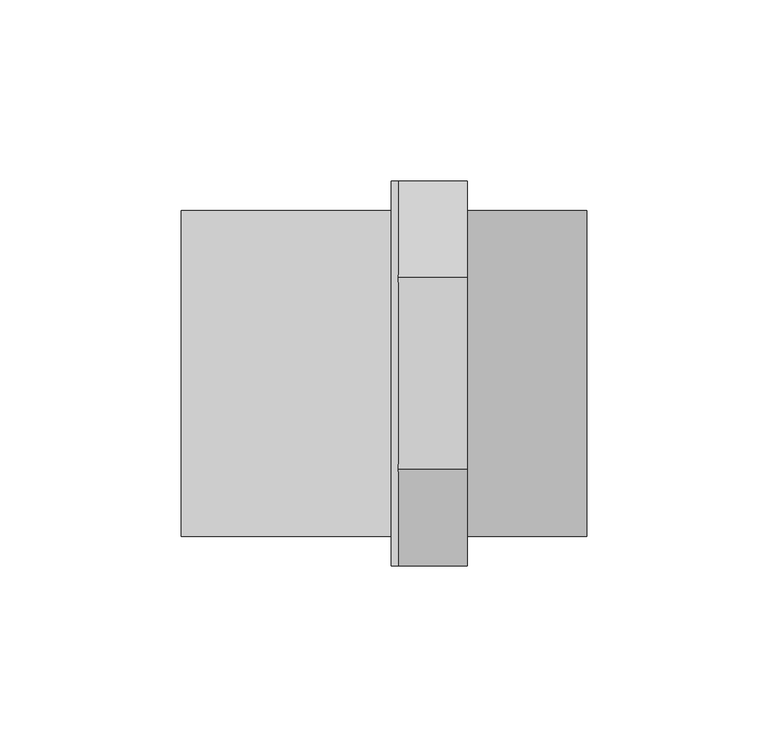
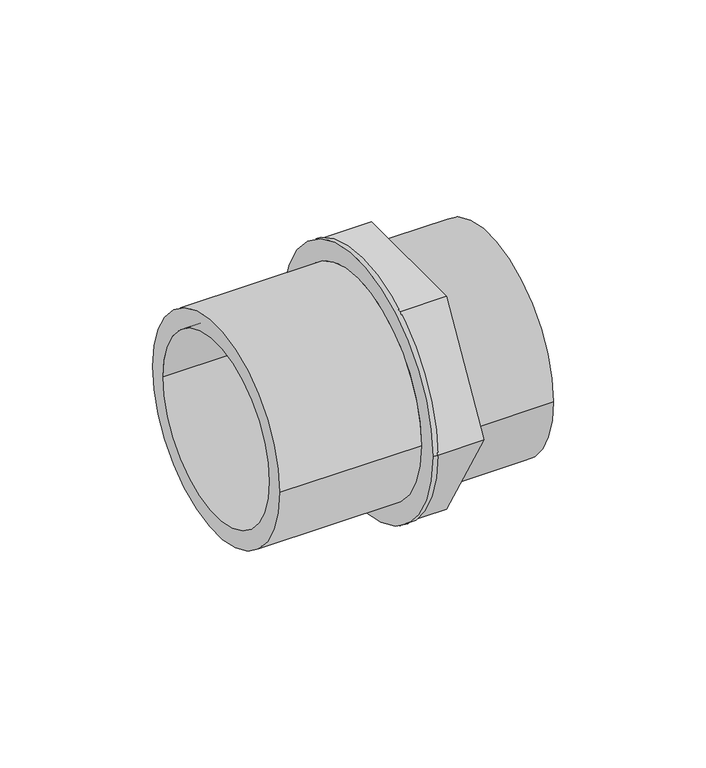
"""IFC4 building model written with IfcOpenShell, lengths in millimetres: pipe fitting geometry, 01011312 : Passa muros em PVC."""

import ifcopenshell
import ifcopenshell.guid

model = None  # the IFC model being written
_history = None  # IfcOwnerHistory: only IFC2X3 demands one
_inside = {}  # id of a spatial element -> (the spatial element, [elements in it])
_under = {}  # id of a project, library or spatial element -> (it, [spatial elements below it])
_declared = {}  # id of a project -> (the project, [libraries it declares])
_typed = {}  # id of a type object -> (the type object, [elements of that type])
_made_of = {}  # id of a material, layer set ... -> (it, [elements and type objects made of it])


def new_model(schema):
    """Start an empty IFC model of exactly this schema.

    Asked for "IFC4X3", IfcOpenShell would pick the latest addendum, in which some entities
    have other attributes; the version numbers below select the first issue.
    IFC2X3 requires an IfcOwnerHistory on every rooted entity: one is made here for all.
    """
    global model, _history
    if schema == "IFC4X3":
        model = ifcopenshell.file(schema_version=(4, 3, 0, 0))
    else:
        model = ifcopenshell.file(schema=schema)
    _inside.clear()
    _under.clear()
    _declared.clear()
    _typed.clear()
    _made_of.clear()
    _history = None
    if model.schema == "IFC2X3":
        org = make("IfcOrganization", Name="unknown")
        user = make(
            "IfcPersonAndOrganization",
            ThePerson=make("IfcPerson", FamilyName="unknown"),
            TheOrganization=org,
        )
        app = make(
            "IfcApplication",
            ApplicationDeveloper=org,
            Version="unknown",
            ApplicationFullName="unknown",
            ApplicationIdentifier="unknown",
        )
        _history = make(
            "IfcOwnerHistory",
            OwningUser=user,
            OwningApplication=app,
            ChangeAction="ADDED",
            CreationDate=0,
        )
    return model


def make(cls, **values):
    """One entity of the class cls with the attributes given. An attribute that is None is left unset."""
    return model.create_entity(
        cls, **{name: value for name, value in values.items() if value is not None}
    )


def rooted(cls, **values):
    """An entity with a GlobalId (a new one), such as an element, a storey or a relation."""
    return make(cls, GlobalId=ifcopenshell.guid.new(), OwnerHistory=_history, **values)


def si_unit(unit_type, name, prefix=None):
    """IfcSIUnit, for example si_unit("LENGTHUNIT", "METRE", prefix="MILLI")."""
    return make("IfcSIUnit", UnitType=unit_type, Prefix=prefix, Name=name)


def assignment(units):
    """IfcUnitAssignment: the units of a project."""
    return None if units is None else make("IfcUnitAssignment", Units=units)


def point(xyz):
    """IfcCartesianPoint."""
    return None if xyz is None else make("IfcCartesianPoint", Coordinates=xyz)


def direction(xyz):
    """IfcDirection."""
    return None if xyz is None else make("IfcDirection", DirectionRatios=xyz)


def frame(location, z_axis=None, x_axis=None):
    """IfcAxis2Placement3D, a coordinate frame: its origin and axes. An axis left out is left unset."""
    return make(
        "IfcAxis2Placement3D",
        Location=point(location),
        Axis=direction(z_axis),
        RefDirection=direction(x_axis),
    )


def origin():
    """The frame at (0, 0, 0) with its axes left unset."""
    return frame((0.0, 0.0, 0.0))


def place(relative_to, where):
    """IfcLocalPlacement: puts the frame where relative to a parent placement (None: the world)."""
    return make(
        "IfcLocalPlacement", PlacementRelTo=relative_to, RelativePlacement=where
    )


def context(
    kind, dimensions, precision=None, world=None, true_north=None, identifier=None
):
    """IfcGeometricRepresentationContext, for example the 3D "Model" context."""
    return make(
        "IfcGeometricRepresentationContext",
        ContextIdentifier=identifier,
        ContextType=kind,
        CoordinateSpaceDimension=dimensions,
        Precision=precision,
        WorldCoordinateSystem=world,
        TrueNorth=true_north,
    )


def project(units=None, contexts=None):
    """IfcProject with its units and contexts."""
    return rooted(
        "IfcProject",
        Name="project",
        RepresentationContexts=contexts,
        UnitsInContext=assignment(units),
    )


def spatial(cls, under=None, at=None, **own):
    """A site, building, storey or space (cls), placed at a placement, below another one or the project."""
    s = rooted(cls, ObjectPlacement=at, **own)
    if under is not None:
        _under.setdefault(under.id(), (under, []))[1].append(s)
    return s


def polyline(points):
    """IfcPolyline through the points."""
    return make("IfcPolyline", Points=[point(p) for p in points])


def circle_curve(where, radius):
    """IfcCircle in the frame where."""
    return make("IfcCircle", Position=where, Radius=radius)


def shape(context_of_items, identifier, shape_type, items):
    """IfcShapeRepresentation: the items that make up one representation, for example the "Body"."""
    return make(
        "IfcShapeRepresentation",
        ContextOfItems=context_of_items,
        RepresentationIdentifier=identifier,
        RepresentationType=shape_type,
        Items=items,
    )


def source(mapping_origin, context_of_items, identifier, shape_type, items):
    """IfcRepresentationMap: a shape defined once, which mapped items show again and again."""
    return make(
        "IfcRepresentationMap",
        MappingOrigin=mapping_origin,
        MappedRepresentation=shape(context_of_items, identifier, shape_type, items),
    )


def transform(
    local_origin,
    x_axis=None,
    y_axis=None,
    z_axis=None,
    scale=None,
    scale2=None,
    scale3=None,
    uniform=True,
):
    """IfcCartesianTransformationOperator3D, or its non-uniform kind. x_axis, y_axis, z_axis: its Axis1, 2, 3."""
    if uniform:
        return make(
            "IfcCartesianTransformationOperator3D",
            Axis1=direction(x_axis),
            Axis2=direction(y_axis),
            LocalOrigin=point(local_origin),
            Scale=scale,
            Axis3=direction(z_axis),
        )
    return make(
        "IfcCartesianTransformationOperator3DnonUniform",
        Axis1=direction(x_axis),
        Axis2=direction(y_axis),
        LocalOrigin=point(local_origin),
        Scale=scale,
        Axis3=direction(z_axis),
        Scale2=scale2,
        Scale3=scale3,
    )


def mapped(mapping_source, mapping_target):
    """IfcMappedItem: shows the shape of a source again, moved by a transform."""
    return make(
        "IfcMappedItem", MappingSource=mapping_source, MappingTarget=mapping_target
    )


def made_of(thing, what):
    """Note that an element or type object is made of a material, layer set ...; save() writes the relation."""
    if what is not None:
        _made_of.setdefault(what.id(), (what, []))[1].append(thing)
    return thing


def element(
    cls,
    number,
    at=None,
    inside=None,
    cuts=None,
    type_object=None,
    material=None,
    context=None,
    identifier="Body",
    shape_type=None,
    held_by="IfcProductDefinitionShape",
    body=None,
    shapes=None,
    **own,
):
    """One element of the class cls, such as IfcWall. Its Tag is "e" and its number.

    at: its placement. inside: the storey or other place that contains it. cuts: it is an
    opening in that element (IfcRelVoidsElement). A single representation is given by context,
    identifier, shape_type and body (its items); several are given by shapes. held_by: the class
    of the entity that holds the representations. save() writes the other relations.
    """
    e = rooted(cls, Tag="e%d" % number, ObjectPlacement=at, **own)
    if body is not None:
        shapes = [shape(context, identifier, shape_type, body)]
    if shapes is not None:
        e.Representation = make(held_by, Representations=shapes)
    if inside is not None:
        _inside.setdefault(inside.id(), (inside, []))[1].append(e)
    if cuts is not None:
        rooted(
            "IfcRelVoidsElement", RelatingBuildingElement=cuts, RelatedOpeningElement=e
        )
    if type_object is not None:
        _typed.setdefault(type_object.id(), (type_object, []))[1].append(e)
    return made_of(e, material)


def aggregate(whole, parts):
    """IfcRelAggregates: a whole, such as a stair, and the parts it consists of."""
    return rooted("IfcRelAggregates", RelatingObject=whole, RelatedObjects=parts)


def save(model, path):
    """Write the relations noted so far, then the file.

    IfcRelAggregates (storeys below a building ...), IfcRelContainedInSpatialStructure (elements
    in a storey), IfcRelDefinesByType, IfcRelAssociatesMaterial and IfcRelDeclares: one each for
    every whole, place, type object, material and project.
    """
    for whole, parts in _under.values():
        aggregate(whole, parts)
    for where, things in _inside.values():
        rooted(
            "IfcRelContainedInSpatialStructure",
            RelatedElements=things,
            RelatingStructure=where,
        )
    for kind, things in _typed.values():
        rooted("IfcRelDefinesByType", RelatedObjects=things, RelatingType=kind)
    for what, things in _made_of.values():
        rooted("IfcRelAssociatesMaterial", RelatedObjects=things, RelatingMaterial=what)
    for by, libraries in _declared.values():
        rooted("IfcRelDeclares", RelatingContext=by, RelatedDefinitions=libraries)
    model.write(path)


def plane_surface(at):
    """IfcPlane: the flat surface through the origin of the frame at, square to its z axis."""
    return make("IfcPlane", Position=at)


def cylinder_surface(at, radius):
    """IfcCylindricalSurface: all points at the distance radius from the z axis of the frame at."""
    return make("IfcCylindricalSurface", Position=at, Radius=radius)


def revolved_surface(curve, axis_point, axis_direction):
    """IfcSurfaceOfRevolution: the curve turned about the line through axis_point along axis_direction."""
    return make(
        "IfcSurfaceOfRevolution",
        SweptCurve=make("IfcArbitraryOpenProfileDef", ProfileType="CURVE", Curve=curve),
        AxisPosition=make("IfcAxis1Placement", Location=point(axis_point), Axis=direction(axis_direction)),
    )


def advanced_brep(points, edges, surfaces, faces):
    """IfcAdvancedBrep: a solid bounded by faces that lie on surfaces and meet in shared edges.

    An edge is (start, end): straight between two places in points (the first is 0);
    or (start, end, curve); or (start, end, curve, False) where it runs against its curve.
    A face is (place in surfaces, loops), or (place, loops, False) where it looks against
    its surface's normal. A loop lists edges by number (the first is 1), with a minus sign
    where the edge is run from its end to its start. The first loop is the outer one.
    """
    corners = [point(p) for p in points]
    vertices = [make("IfcVertexPoint", VertexGeometry=c) for c in corners]
    made = []
    for start, end, *more in edges:
        made.append(
            make(
                "IfcEdgeCurve",
                EdgeStart=vertices[start],
                EdgeEnd=vertices[end],
                EdgeGeometry=more[0] if more else make("IfcPolyline", Points=[corners[start], corners[end]]),
                SameSense=more[1] if len(more) > 1 else True,
            )
        )
    hull = []
    for where, loops, *sense in faces:
        bounds = []
        for j, loop in enumerate(loops):
            ring = [make("IfcOrientedEdge", EdgeElement=made[abs(k) - 1], Orientation=k > 0) for k in loop]
            bounds.append(
                make(
                    "IfcFaceOuterBound" if j == 0 else "IfcFaceBound",
                    Bound=make("IfcEdgeLoop", EdgeList=ring),
                    Orientation=True,
                )
            )
        hull.append(make("IfcAdvancedFace", Bounds=bounds, FaceSurface=surfaces[where], SameSense=sense[0] if sense else True))
    return make("IfcAdvancedBrep", Outer=make("IfcClosedShell", CfsFaces=hull))


def pipe_fitting_8226b446(model_context):
    return source(origin(), model_context, "Body", "AdvancedBrep", [
        advanced_brep(
        [(23.0, -26.5581124, 46.0), (23.0, -53.1162248, 0.0), (23.0, -26.5581124, -46.0), (23.0, 26.5581124, -46.0), (23.0, 53.1162248, 0.0), (23.0, 26.5581124, 46.0), (23.0, -45.0, 0.0), (23.0, 45.0, 0.0), (23.0, 37.5, 0.0), (23.0, -37.5, 0.0), (4.0, -26.5581124, 46.0), (4.0, -53.1162248, 0.0), (4.0, -26.5581124, -46.0), (4.0, 26.5581124, -46.0), (4.0, 53.1162248, 0.0), (4.0, 26.5581124, 46.0), (56.0, -45.0, 0.0), (56.0, 45.0, 0.0), (56.0, -37.5, 0.0), (56.0, 37.5, 0.0), (-56.0, 45.0, 0.0), (-56.0, -45.0, 0.0), (-56.0, 37.5, 0.0), (-56.0, -37.5, 0.0), (2.0, -45.0, 0.0), (2.0, 45.0, 0.0), (2.0, -53.1162248, 0.0), (2.0, 53.1162248, 0.0), (2.0, -37.5, 0.0), (2.0, 37.5, 0.0)],
        [
            (0, 1),
            (1, 2),
            (2, 3),
            (3, 4),
            (4, 5),
            (5, 0),
            (6, 7, circle_curve(frame((23.0, 0.0, 0.0), z_axis=(-1.0, 0.0, 0.0), x_axis=(0.0, 1.0, 0.0)), 45.0)),
            (7, 6, circle_curve(frame((23.0, 0.0, 0.0), z_axis=(-1.0, 0.0, 0.0), x_axis=(0.0, 1.0, 0.0)), 45.0)),
            (8, 9, circle_curve(frame((23.0, 0.0, 0.0), z_axis=(1.0, 0.0, 0.0), x_axis=(0.0, 1.0, 0.0)), 37.5)),
            (9, 8, circle_curve(frame((23.0, 0.0, 0.0), z_axis=(1.0, 0.0, 0.0), x_axis=(0.0, 1.0, 0.0)), 37.5)),
            (0, 10),
            (10, 11),
            (11, 1),
            (11, 12),
            (12, 2),
            (12, 13),
            (13, 3),
            (13, 14),
            (14, 4),
            (14, 15),
            (15, 5),
            (15, 10),
            (16, 17, circle_curve(frame((56.0, 0.0, 0.0), z_axis=(1.0, 0.0, 0.0), x_axis=(0.0, 1.0, 0.0)), 45.0)),
            (17, 16, circle_curve(frame((56.0, 0.0, 0.0), z_axis=(1.0, 0.0, 0.0), x_axis=(0.0, 1.0, 0.0)), 45.0)),
            (18, 19, circle_curve(frame((56.0, 0.0, 0.0), z_axis=(-1.0, 0.0, 0.0), x_axis=(0.0, 1.0, 0.0)), 37.5)),
            (19, 18, circle_curve(frame((56.0, 0.0, 0.0), z_axis=(-1.0, 0.0, 0.0), x_axis=(0.0, 1.0, 0.0)), 37.5)),
            (17, 7),
            (6, 16),
            (20, 21, circle_curve(frame((-56.0, 0.0, 0.0), z_axis=(-1.0, 0.0, 0.0), x_axis=(0.0, -1.0, 0.0)), 45.0)),
            (21, 20, circle_curve(frame((-56.0, 0.0, 0.0), z_axis=(-1.0, 0.0, 0.0), x_axis=(0.0, -1.0, 0.0)), 45.0)),
            (22, 23, circle_curve(frame((-56.0, 0.0, 0.0), z_axis=(1.0, 0.0, 0.0), x_axis=(0.0, -1.0, 0.0)), 37.5)),
            (23, 22, circle_curve(frame((-56.0, 0.0, 0.0), z_axis=(1.0, 0.0, 0.0), x_axis=(0.0, -1.0, 0.0)), 37.5)),
            (21, 24),
            (24, 25, circle_curve(frame((2.0, 0.0, 0.0), z_axis=(-1.0, 0.0, 0.0), x_axis=(0.0, -1.0, 0.0)), 45.0)),
            (25, 20),
            (25, 24, circle_curve(frame((2.0, 0.0, 0.0), z_axis=(-1.0, 0.0, 0.0), x_axis=(0.0, -1.0, 0.0)), 45.0)),
            (10, 11, circle_curve(frame((4.0, 0.0, 0.0), z_axis=(1.0, 0.0, 0.0), x_axis=(0.0, 1.0, 0.0)), 53.1162248)),
            (14, 15, circle_curve(frame((4.0, 0.0, 0.0), z_axis=(1.0, 0.0, 0.0), x_axis=(0.0, 1.0, 0.0)), 53.1162248)),
            (15, 10, circle_curve(frame((4.0, 0.0, 0.0), z_axis=(1.0, 0.0, 0.0), x_axis=(0.0, 1.0, 0.0)), 53.1162248)),
            (13, 14, circle_curve(frame((4.0, 0.0, 0.0), z_axis=(1.0, 0.0, 0.0), x_axis=(0.0, 1.0, 0.0)), 53.1162248)),
            (11, 12, circle_curve(frame((4.0, 0.0, 0.0), z_axis=(1.0, 0.0, 0.0), x_axis=(0.0, 1.0, 0.0)), 53.1162248)),
            (12, 13, circle_curve(frame((4.0, 0.0, 0.0), z_axis=(1.0, 0.0, 0.0), x_axis=(0.0, 1.0, 0.0)), 53.1162248)),
            (26, 27, circle_curve(frame((2.0, 0.0, 0.0), z_axis=(-1.0, 0.0, 0.0), x_axis=(0.0, 1.0, 0.0)), 53.1162248)),
            (27, 26, circle_curve(frame((2.0, 0.0, 0.0), z_axis=(-1.0, 0.0, 0.0), x_axis=(0.0, 1.0, 0.0)), 53.1162248)),
            (28, 29, circle_curve(frame((2.0, 0.0, 0.0), z_axis=(-1.0, 0.0, 0.0), x_axis=(0.0, -1.0, 0.0)), 37.5)),
            (29, 28, circle_curve(frame((2.0, 0.0, 0.0), z_axis=(-1.0, 0.0, 0.0), x_axis=(0.0, -1.0, 0.0)), 37.5)),
            (27, 14),
            (11, 26),
            (18, 9),
            (8, 19),
            (22, 29),
            (28, 23),
        ],
        [
            plane_surface(frame((23.0, -26.5581124, 46.0), z_axis=(1.0000000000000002, 0.0, 0.0), x_axis=(0.0, -0.5000000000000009, -0.8660254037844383))),
            plane_surface(frame((23.0, -26.5581124, 46.0), z_axis=(0.0, -0.8660254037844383, 0.5000000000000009), x_axis=(-1.0, 0.0, 0.0))),
            plane_surface(frame((23.0, -53.1162248, 0.0), z_axis=(0.0, -0.866025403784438, -0.500000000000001), x_axis=(-1.0, 0.0, 0.0))),
            plane_surface(frame((23.0, -26.5581124, -46.0), z_axis=(0.0, 0.0, -1.0), x_axis=(-1.0, 0.0, 0.0))),
            plane_surface(frame((23.0, 26.5581124, -46.0), z_axis=(0.0, 0.8660254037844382, -0.5000000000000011), x_axis=(-1.0, 0.0, 0.0))),
            plane_surface(frame((23.0, 53.1162248, 0.0), z_axis=(0.0, 0.8660254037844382, 0.500000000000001), x_axis=(-1.0, 0.0, 0.0))),
            plane_surface(frame((23.0, 26.5581124, 46.0), z_axis=(0.0, 0.0, 1.0), x_axis=(-1.0, 0.0, 0.0))),
            plane_surface(frame((56.0, 0.0, 0.0), z_axis=(1.0, 0.0, 0.0), x_axis=(0.0, 0.0, 1.0))),
            cylinder_surface(frame((23.0, 0.0, 0.0), z_axis=(-1.0, 0.0, 0.0), x_axis=(0.0, 1.0, 0.0)), 45.0),
            plane_surface(frame((-56.0, 0.0, 0.0), z_axis=(-1.0, 0.0, 0.0), x_axis=(0.0, 0.0, 1.0))),
            cylinder_surface(frame((2.0, 0.0, 0.0), z_axis=(1.0, 0.0, 0.0), x_axis=(0.0, -1.0, 0.0)), 45.0),
            plane_surface(frame((4.0, 53.1162248, 0.0), z_axis=(1.0, 0.0, 0.0), x_axis=(0.0, 0.0, 1.0))),
            plane_surface(frame((2.0, 53.1162248, 0.0), z_axis=(-1.0, 0.0, 0.0), x_axis=(0.0, 0.0, -1.0))),
            cylinder_surface(frame((2.0, 0.0, 0.0), z_axis=(1.0, 0.0, 0.0), x_axis=(0.0, 1.0, 0.0)), 53.1162248),
            revolved_surface(polyline([(56.0, 37.5, 0.0), (23.0, 37.5, 0.0)]), (23.0, 0.0, 0.0), (1.0, 0.0, 0.0)),
            revolved_surface(polyline([(-56.0, -37.5, 0.0), (2.0, -37.5, 0.0)]), (2.0, 0.0, 0.0), (-1.0, 0.0, 0.0)),
        ],
        [
            (0, [[1, 2, 3, 4, 5, 6], [7, 8]]),
            (0, [[9, 10]]),
            (1, [[-1, 11, 12, 13]]),
            (2, [[-2, -13, 14, 15]]),
            (3, [[-3, -15, 16, 17]]),
            (4, [[-4, -17, 18, 19]]),
            (5, [[-5, -19, 20, 21]]),
            (6, [[-6, -21, 22, -11]]),
            (7, [[23, 24], [25, 26]]),
            (8, [[-24, 27, -7, 28]]),
            (8, [[-23, -28, -8, -27]]),
            (9, [[29, 30], [31, 32]]),
            (10, [[-30, 33, 34, 35]]),
            (10, [[-29, -35, 36, -33]]),
            (11, [[37, -12]]),
            (11, [[38, -20]]),
            (11, [[39, -22]]),
            (11, [[40, -18]]),
            (11, [[41, -14]]),
            (11, [[42, -16]]),
            (12, [[43, 44], [-34, -36]]),
            (12, [[45, 46]]),
            (13, [[-44, 47, -40, -42, -41, 48]]),
            (13, [[-43, -48, -37, -39, -38, -47]]),
            (14, [[-25, 49, -9, 50]]),
            (14, [[-26, -50, -10, -49]]),
            (15, [[-31, 51, -45, 52]]),
            (15, [[-32, -52, -46, -51]]),
        ],
    ),
    ])


if __name__ == "__main__":
    model = new_model("IFC4")
    model_context = context("Model", 3, world=origin())
    ifc_project = project(units=[si_unit("LENGTHUNIT", "METRE", prefix="MILLI")], contexts=[model_context])
    site = spatial("IfcSite", under=ifc_project)
    building = spatial("IfcBuilding", under=site)
    placement = place(None, origin())
    pipe_fitting_shape = pipe_fitting_8226b446(model_context)
    element("IfcPipeFitting", 1, ObjectType="01011312 : Passa muros em PVC", at=placement, inside=building, context=model_context, shape_type="MappedRepresentation", body=[
        mapped(pipe_fitting_shape, transform((0.0, 0.0, 0.0), x_axis=(1.0, 0.0, 0.0), y_axis=(0.0, 1.0, 0.0), z_axis=(0.0, 0.0, 1.0))),
    ])
    save(model, "model.ifc")
